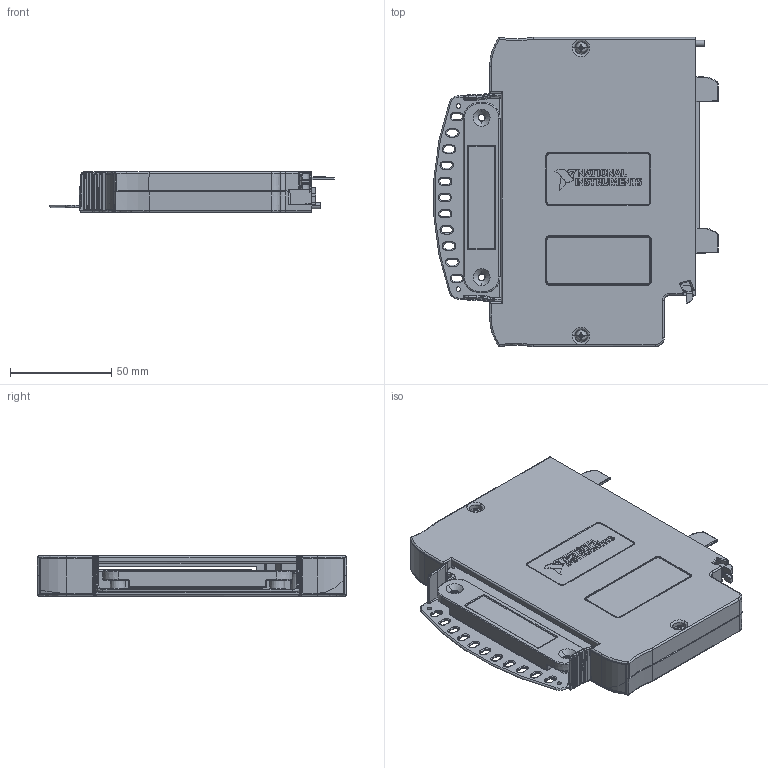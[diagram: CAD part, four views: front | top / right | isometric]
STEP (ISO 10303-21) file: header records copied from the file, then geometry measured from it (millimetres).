
FILE_DESCRIPTION((''),'2;1');
FILE_NAME('CU_PXIE_SC_TB-4300','2010-12-13T',('dkendric'),(''),'PRO/ENGINEER BY PARAMETRIC TECHNOLOGY CORPORATION, 2006510','PRO/ENGINEER BY PARAMETRIC TECHNOLOGY CORPORATION, 2006510','');
FILE_SCHEMA(('CONFIG_CONTROL_DESIGN'));
Products named in the file (1): CU_PXIE_SC_TB-4300
Bounding box: 140.31 x 152.83 x 20.02 mm (x, y, z)
Volume: 89670.4 mm3; surface area: 98117.3 mm2
Topology: 2 solids, 3 shells, 3643 faces, 8784 edges, 5269 vertices
Faces by surface type: plane 1668, cylinder 801, bspline 453, torus 286, cone 197, sphere 171, extrusion 67
Entity records: 139433 total; most frequent: CARTESIAN_POINT 57865, ORIENTED_EDGE 17536, DIRECTION 15667, EDGE_CURVE 8768, VERTEX_POINT 5324, VECTOR 5259, AXIS2_PLACEMENT_3D 5204, LINE 5192
